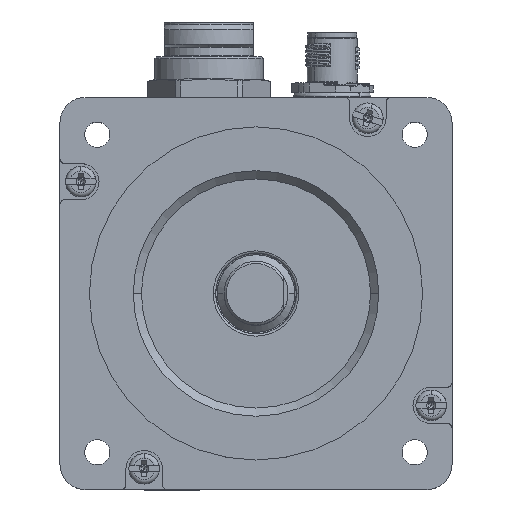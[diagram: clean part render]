
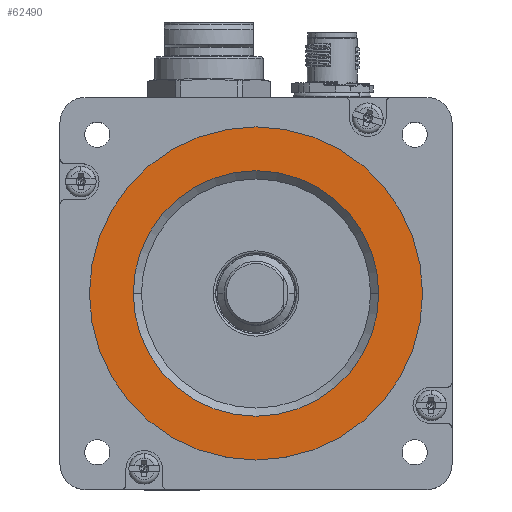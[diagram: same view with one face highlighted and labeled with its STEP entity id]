
A CAD part, top view. The second image highlights one B-rep face of the part: STEP entity #62490.
In plain terms, the highlighted planar face has unit normal (0, 0, 1).
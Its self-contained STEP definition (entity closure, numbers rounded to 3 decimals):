
#702 = CARTESIAN_POINT ( 'NONE',  ( -11.701, 1.96, 96.4 ) ) ;
#1874 = ORIENTED_EDGE ( 'NONE', *, *, #76720, .T. ) ;
#2825 = VERTEX_POINT ( 'NONE', #113299 ) ;
#3423 = CARTESIAN_POINT ( 'NONE',  ( -38.601, 1.96, 96.4 ) ) ;
#3938 = EDGE_CURVE ( 'NONE', #96358, #2825, #43489, .T. ) ;
#8020 = CARTESIAN_POINT ( 'NONE',  ( -11.701, 1.96, 96.4 ) ) ;
#14555 = EDGE_CURVE ( 'NONE', #2825, #96358, #30036, .T. ) ;
#15420 = ORIENTED_EDGE ( 'NONE', *, *, #3938, .T. ) ;
#15428 = CIRCLE ( 'NONE', #44174, 26.9 ) ;
#15471 = CARTESIAN_POINT ( 'NONE',  ( -11.701, 1.96, 96.4 ) ) ;
#16955 = DIRECTION ( 'NONE',  ( 1., 0., 0. ) ) ;
#21470 = ORIENTED_EDGE ( 'NONE', *, *, #14555, .T. ) ;
#24294 = CIRCLE ( 'NONE', #43497, 26.9 ) ;
#24810 = DIRECTION ( 'NONE',  ( 1., 0., 0. ) ) ;
#26092 = DIRECTION ( 'NONE',  ( 0., 0., 1. ) ) ;
#26580 = DIRECTION ( 'NONE',  ( 0., 0., -1. ) ) ;
#29864 = VERTEX_POINT ( 'NONE', #76314 ) ;
#30036 = CIRCLE ( 'NONE', #107269, 36.5 ) ;
#43489 = CIRCLE ( 'NONE', #111185, 36.5 ) ;
#43497 = AXIS2_PLACEMENT_3D ( 'NONE', #71893, #90623, #24810 ) ;
#44174 = AXIS2_PLACEMENT_3D ( 'NONE', #702, #26580, #16955 ) ;
#51629 = DIRECTION ( 'NONE',  ( 0., 0., 1. ) ) ;
#62490 = ADVANCED_FACE ( 'NONE', ( #90248, #89654 ), #81799, .T. ) ;
#62920 = DIRECTION ( 'NONE',  ( 1., 0., 0. ) ) ;
#71893 = CARTESIAN_POINT ( 'NONE',  ( -11.701, 1.96, 96.4 ) ) ;
#72132 = DIRECTION ( 'NONE',  ( 0., 0., 1. ) ) ;
#76314 = CARTESIAN_POINT ( 'NONE',  ( 15.199, 1.96, 96.4 ) ) ;
#76720 = EDGE_CURVE ( 'NONE', #107126, #29864, #24294, .T. ) ;
#80024 = ORIENTED_EDGE ( 'NONE', *, *, #90652, .T. ) ;
#81799 = PLANE ( 'NONE',  #91730 ) ;
#83105 = EDGE_LOOP ( 'NONE', ( #21470, #15420 ) ) ;
#89654 = FACE_OUTER_BOUND ( 'NONE', #83105, .T. ) ;
#90248 = FACE_BOUND ( 'NONE', #110851, .T. ) ;
#90380 = CARTESIAN_POINT ( 'NONE',  ( -48.201, 1.96, 96.4 ) ) ;
#90623 = DIRECTION ( 'NONE',  ( 0., 0., -1. ) ) ;
#90652 = EDGE_CURVE ( 'NONE', #29864, #107126, #15428, .T. ) ;
#91730 = AXIS2_PLACEMENT_3D ( 'NONE', #99918, #72132, #109020 ) ;
#96358 = VERTEX_POINT ( 'NONE', #90380 ) ;
#99918 = CARTESIAN_POINT ( 'NONE',  ( -49.151, -35.49, 96.4 ) ) ;
#107126 = VERTEX_POINT ( 'NONE', #3423 ) ;
#107269 = AXIS2_PLACEMENT_3D ( 'NONE', #15471, #51629, #109092 ) ;
#109020 = DIRECTION ( 'NONE',  ( 1., 0., 0. ) ) ;
#109092 = DIRECTION ( 'NONE',  ( 1., 0., 0. ) ) ;
#110851 = EDGE_LOOP ( 'NONE', ( #80024, #1874 ) ) ;
#111185 = AXIS2_PLACEMENT_3D ( 'NONE', #8020, #26092, #62920 ) ;
#113299 = CARTESIAN_POINT ( 'NONE',  ( 24.799, 1.96, 96.4 ) ) ;
